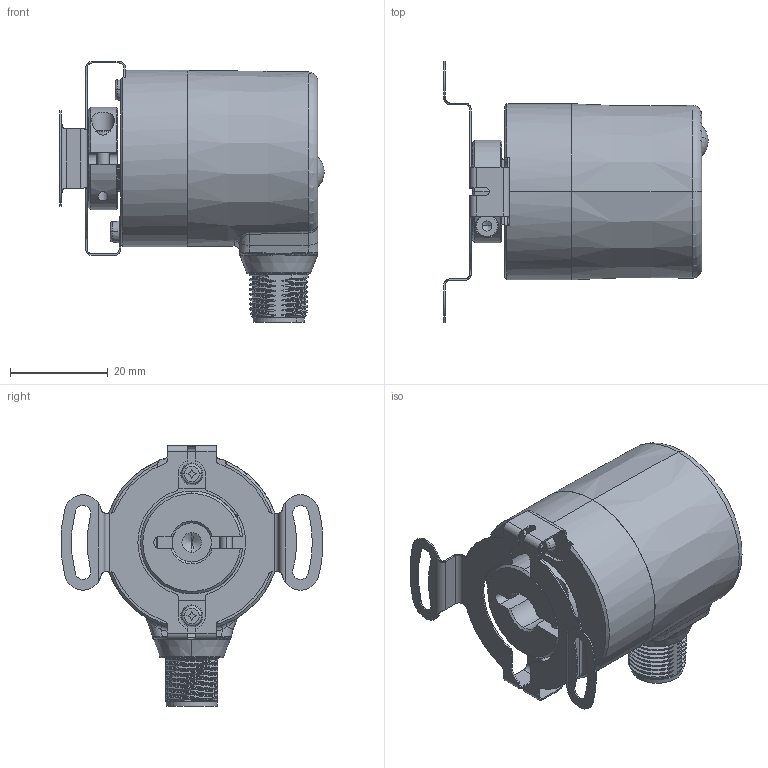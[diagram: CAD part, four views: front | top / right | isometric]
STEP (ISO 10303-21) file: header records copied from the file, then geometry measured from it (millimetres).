
FILE_DESCRIPTION (( 'STEP AP214' ), '1' );
FILE_NAME ('3671.54X4.XXXX.STEP', '2008-09-12T07:27:25', ( 'admin' ), ( 'Fritz Kübler GmbH' ), 'SwSTEP 2.0', 'SolidWorks 2008', '' );
FILE_SCHEMA (( 'AUTOMOTIVE_DESIGN' ));
Length unit declared in the file: millimetre
Products named in the file (1): 3671.54X4.XXXX
Bounding box: 53.99 x 53.5 x 53.3 mm (x, y, z)
Volume: 22444.4 mm3; surface area: 21819.5 mm2
Topology: 10 solids, 10 shells, 898 faces, 2209 edges, 1378 vertices
Faces by surface type: cylinder 283, plane 229, cone 163, bspline 130, torus 87, sphere 6
Entity records: 55807 total; most frequent: CARTESIAN_POINT 25455, ORIENTED_EDGE 4370, DIRECTION 4120, EDGE_CURVE 2185, AXIS2_PLACEMENT_3D 1656, VERTEX_POINT 1378, EDGE_LOOP 989, UNCERTAINTY_MEASURE_WITH_UNIT 909
